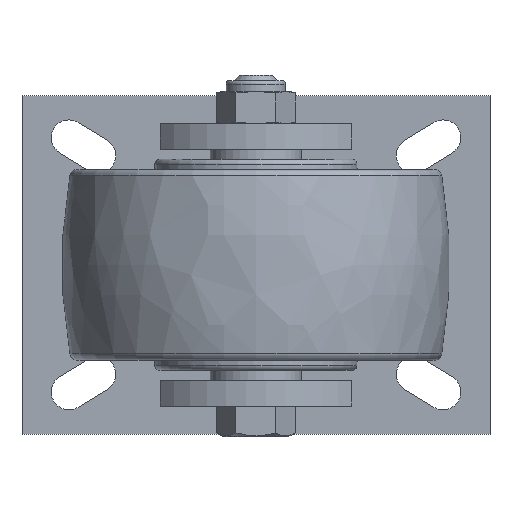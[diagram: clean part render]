
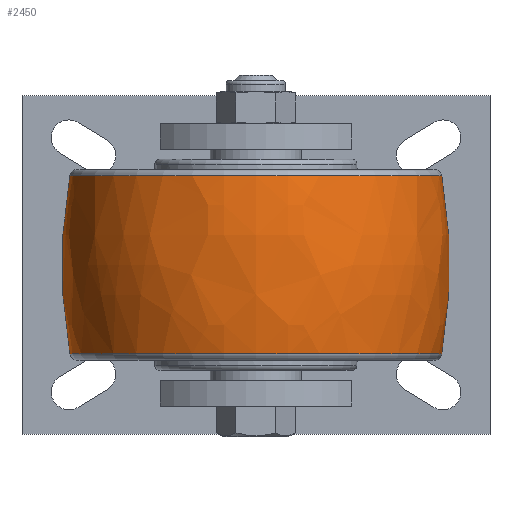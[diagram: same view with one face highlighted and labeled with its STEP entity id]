
A CAD part, front view. The second image highlights one B-rep face of the part: STEP entity #2450.
In plain terms, the highlighted free-form (B-spline) face has degree [3, 3] with [7, 4] control points.
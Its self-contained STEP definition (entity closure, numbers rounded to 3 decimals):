
#1069=CARTESIAN_POINT('',(-35.025,0.,0.));
#1070=DIRECTION('',(-1.,0.,0.));
#1071=DIRECTION('',(0.,1.,0.));
#1072=AXIS2_PLACEMENT_3D('',#1069,#1070,#1071);
#1084=CARTESIAN_POINT('',(0.,-123.8,0.));
#1085=DIRECTION('',(0.,0.,1.));
#1086=DIRECTION('',(0.175,0.985,0.));
#1087=AXIS2_PLACEMENT_3D('',#1084,#1085,#1086);
#1089=CARTESIAN_POINT('',(0.,123.8,0.));
#1090=DIRECTION('',(0.,0.,-1.));
#1091=DIRECTION('',(0.175,-0.985,0.));
#1092=AXIS2_PLACEMENT_3D('',#1089,#1090,#1091);
#1094=CARTESIAN_POINT('',(35.025,0.,0.));
#1095=DIRECTION('',(-1.,0.,0.));
#1096=DIRECTION('',(0.,1.,0.));
#1097=AXIS2_PLACEMENT_3D('',#1094,#1095,#1096);
#2223=CARTESIAN_POINT('',(35.025,73.109,0.));
#2224=CARTESIAN_POINT('',(-35.025,73.109,0.));
#2225=VERTEX_POINT('',#2223);
#2226=VERTEX_POINT('',#2224);
#2231=CARTESIAN_POINT('',(35.025,-73.109,
0.));
#2232=CARTESIAN_POINT('',(-35.025,-73.109,
0.));
#2233=VERTEX_POINT('',#2231);
#2234=VERTEX_POINT('',#2232);
#2414=CARTESIAN_POINT('',(-36.411,-72.714,
4.575));
#2415=CARTESIAN_POINT('',(-12.274,-77.174,
4.855));
#2416=CARTESIAN_POINT('',(12.274,-77.174,4.855));
#2417=CARTESIAN_POINT('',(36.411,-72.714,4.575));
#2418=CARTESIAN_POINT('',(-36.411,-75.529,
-40.173));
#2419=CARTESIAN_POINT('',(-12.274,-80.162,
-42.637));
#2420=CARTESIAN_POINT('',(12.274,-80.162,
-42.637));
#2421=CARTESIAN_POINT('',(36.411,-75.529,
-40.173));
#2422=CARTESIAN_POINT('',(-36.411,-44.837,
-72.858));
#2423=CARTESIAN_POINT('',(-12.274,-47.587,
-77.327));
#2424=CARTESIAN_POINT('',(12.274,-47.587,
-77.327));
#2425=CARTESIAN_POINT('',(36.411,-44.837,
-72.858));
#2426=CARTESIAN_POINT('',(-36.411,0.,
-72.858));
#2427=CARTESIAN_POINT('',(-12.274,0.,
-77.327));
#2428=CARTESIAN_POINT('',(12.274,0.,
-77.327));
#2429=CARTESIAN_POINT('',(36.411,0.,
-72.858));
#2430=CARTESIAN_POINT('',(-36.411,44.837,
-72.858));
#2431=CARTESIAN_POINT('',(-12.274,47.587,
-77.327));
#2432=CARTESIAN_POINT('',(12.274,47.587,-77.327));
#2433=CARTESIAN_POINT('',(36.411,44.837,-72.858));
#2434=CARTESIAN_POINT('',(-36.411,75.529,
-40.173));
#2435=CARTESIAN_POINT('',(-12.274,80.162,
-42.637));
#2436=CARTESIAN_POINT('',(12.274,80.162,-42.637));
#2437=CARTESIAN_POINT('',(36.411,75.529,-40.173));
#2438=CARTESIAN_POINT('',(-36.411,72.714,4.575));
#2439=CARTESIAN_POINT('',(-12.274,77.174,4.855));
#2440=CARTESIAN_POINT('',(12.274,77.174,4.855));
#2441=CARTESIAN_POINT('',(36.411,72.714,4.575));
#2442=(BOUNDED_SURFACE()B_SPLINE_SURFACE(3,3,((#2414,#2415,#2416,#2417),(#2418,
#2419,#2420,#2421),(#2422,#2423,#2424,#2425),(#2426,#2427,#2428,#2429),(#2430,
#2431,#2432,#2433),(#2434,#2435,#2436,#2437),(#2438,#2439,#2440,#2441)),
.UNSPECIFIED.,.F.,.F.,.F.)B_SPLINE_SURFACE_WITH_KNOTS((4,3,4),(4,4),(0.,1.,
2.),(0.,1.),.UNSPECIFIED.)GEOMETRIC_REPRESENTATION_ITEM()RATIONAL_B_SPLINE_SURFACE(((1.197,1.184,1.184,1.197),(
0.945,0.935,0.935,0.945),(
0.945,0.935,0.935,0.945),(
1.197,1.184,1.184,1.197),(
0.945,0.935,0.935,0.945),(
0.945,0.935,0.935,0.945),(
1.197,1.184,1.184,1.197)))REPRESENTATION_ITEM('')SURFACE());
#2443=ORIENTED_EDGE('',*,*,#2404,.T.);
#2444=ORIENTED_EDGE('',*,*,#2357,.T.);
#2445=ORIENTED_EDGE('',*,*,#2408,.F.);
#2447=ORIENTED_EDGE('',*,*,#2446,.F.);
#2448=EDGE_LOOP('',(#2443,#2444,#2445,#2447));
#2449=FACE_OUTER_BOUND('',#2448,.F.);
#1073=CIRCLE('',#1072,73.109);
#1088=CIRCLE('',#1087,200.);
#1093=CIRCLE('',#1092,200.);
#1098=CIRCLE('',#1097,73.109);
#2357=EDGE_CURVE('',#2226,#2234,#1073,.T.);
#2404=EDGE_CURVE('',#2225,#2226,#1088,.T.);
#2408=EDGE_CURVE('',#2233,#2234,#1093,.T.);
#2446=EDGE_CURVE('',#2225,#2233,#1098,.T.);
#2450=ADVANCED_FACE('',(#2449),#2442,.T.);
